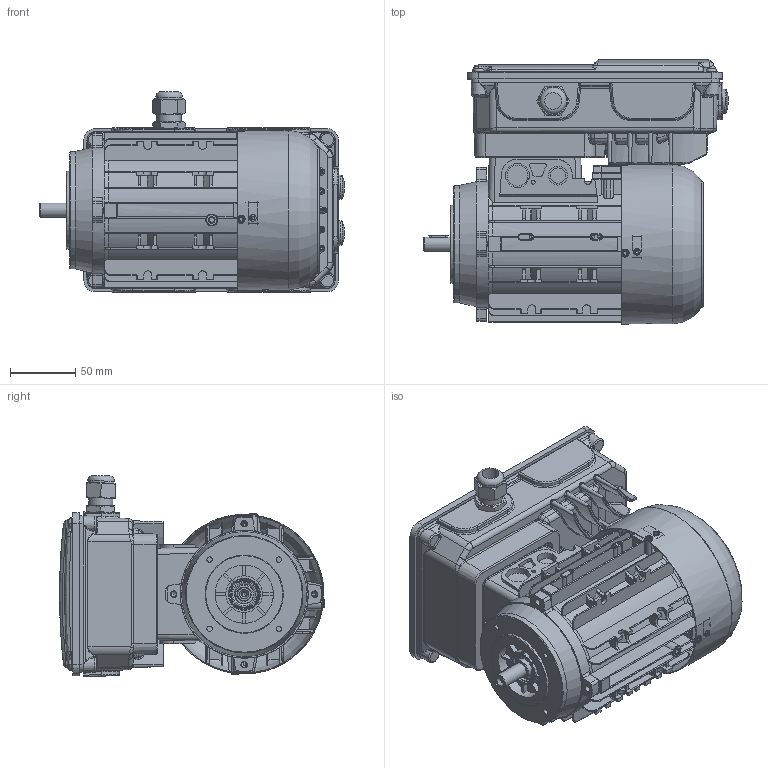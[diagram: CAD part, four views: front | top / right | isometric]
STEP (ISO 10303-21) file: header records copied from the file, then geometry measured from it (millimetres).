
FILE_DESCRIPTION(/* description */ (''),/* implementation_level */ '2;1');
FILE_NAME(/* name */ 'EM5150630370.stp',/* time_stamp */ '2024-02-07T16:16:16+01:00',/* author */ ('r.biemans'),/* organization */ ('BCK Holland b.v.'),/* preprocessor_version */ 'ST-DEVELOPER v19.2',/* originating_system */ 'Autodesk Inventor 2023',/* authorisation */ '');
FILE_SCHEMA (('AUTOMOTIVE_DESIGN { 1 0 10303 214 3 1 1 }'));
Products named in the file (1): EM5150630370
Bounding box: 233.71 x 203 x 153.87 mm (x, y, z)
Volume: 471284.7 mm3; surface area: 500202.7 mm2
Topology: 5 solids, 18 shells, 3936 faces, 10099 edges, 6277 vertices
Faces by surface type: plane 1462, cylinder 1178, bspline 496, torus 422, cone 292, sphere 86
Full cylindrical faces by diameter (mm): 1.5 x1, 2.225 x6, 3 x13, 3.1 x5, 3.11 x2, 3.3 x6, 4 x1, 4.2 x12, 4.3 x1, 4.5 x8, 5 x16, 5.5 x4, 6 x12, 8 x5, 9 x8, 11 x1, 11.7 x2, 13 x3, 14.6 x2, 15 x7, 16 x2, 16.5 x1, 17 x1, 17.7 x1, 17.771 x1, 18.45 x1, 18.5 x4, 18.6 x1, 19 x1, 19.3 x1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
Entity records: 192231 total; most frequent: CARTESIAN_POINT 96603, ORIENTED_EDGE 20133, DIRECTION 18817, EDGE_CURVE 10067, AXIS2_PLACEMENT_3D 7166, VERTEX_POINT 6277, LINE 4485, VECTOR 4485
